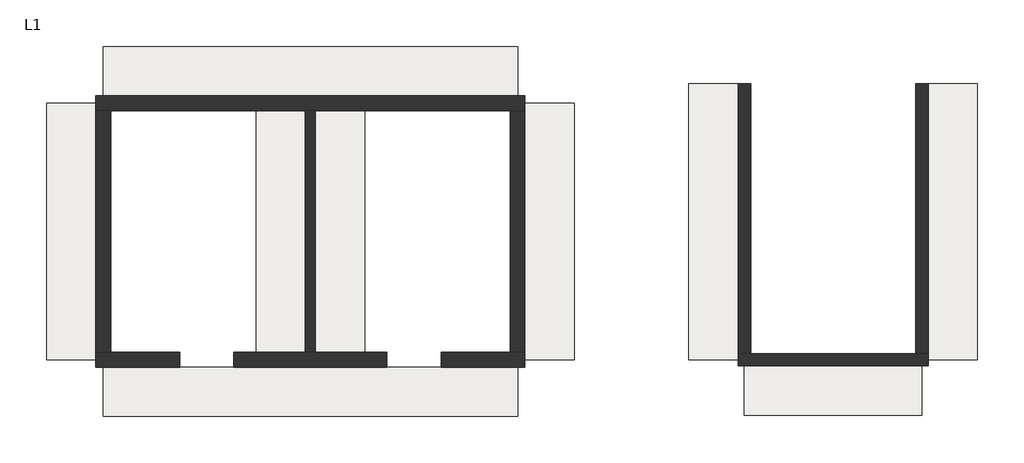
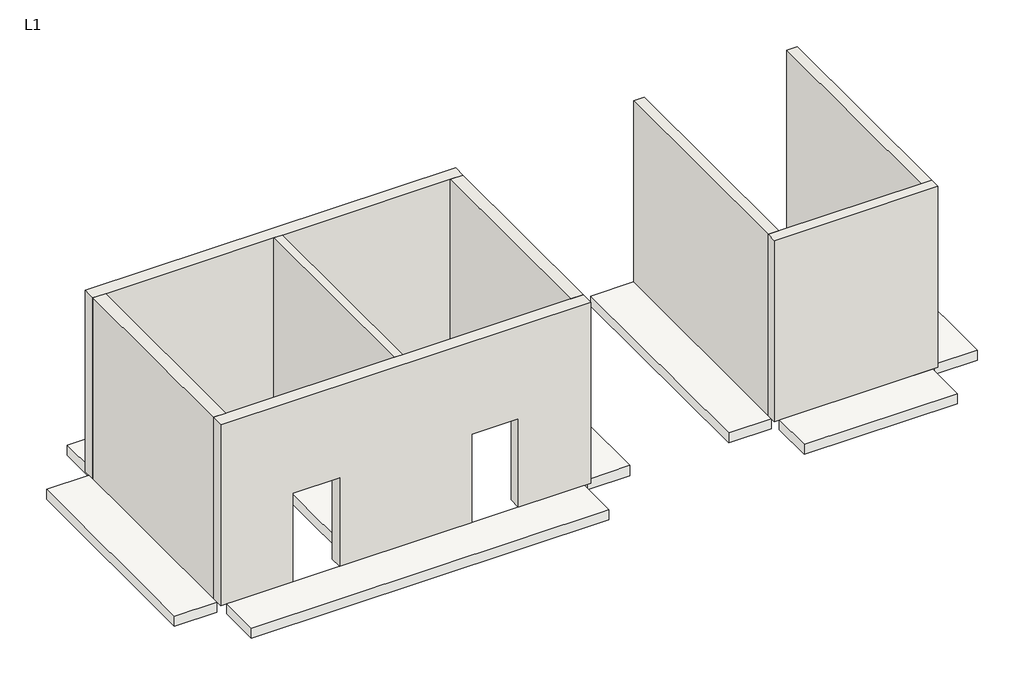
# One storey: 9 slabs, 8 walls.
"""IFC4 building model written with IfcOpenShell, lengths in millimetres."""

import ifcopenshell
import ifcopenshell.guid

model = None  # the IFC model being written
_history = None  # IfcOwnerHistory: only IFC2X3 demands one
_inside = {}  # id of a spatial element -> (the spatial element, [elements in it])
_under = {}  # id of a project, library or spatial element -> (it, [spatial elements below it])
_declared = {}  # id of a project -> (the project, [libraries it declares])
_typed = {}  # id of a type object -> (the type object, [elements of that type])
_made_of = {}  # id of a material, layer set ... -> (it, [elements and type objects made of it])


def new_model(schema):
    """Start an empty IFC model of exactly this schema.

    Asked for "IFC4X3", IfcOpenShell would pick the latest addendum, in which some entities
    have other attributes; the version numbers below select the first issue.
    IFC2X3 requires an IfcOwnerHistory on every rooted entity: one is made here for all.
    """
    global model, _history
    if schema == "IFC4X3":
        model = ifcopenshell.file(schema_version=(4, 3, 0, 0))
    else:
        model = ifcopenshell.file(schema=schema)
    _inside.clear()
    _under.clear()
    _declared.clear()
    _typed.clear()
    _made_of.clear()
    _history = None
    if model.schema == "IFC2X3":
        org = make("IfcOrganization", Name="unknown")
        user = make(
            "IfcPersonAndOrganization",
            ThePerson=make("IfcPerson", FamilyName="unknown"),
            TheOrganization=org,
        )
        app = make(
            "IfcApplication",
            ApplicationDeveloper=org,
            Version="unknown",
            ApplicationFullName="unknown",
            ApplicationIdentifier="unknown",
        )
        _history = make(
            "IfcOwnerHistory",
            OwningUser=user,
            OwningApplication=app,
            ChangeAction="ADDED",
            CreationDate=0,
        )
    return model


def make(cls, **values):
    """One entity of the class cls with the attributes given. An attribute that is None is left unset."""
    return model.create_entity(
        cls, **{name: value for name, value in values.items() if value is not None}
    )


def rooted(cls, **values):
    """An entity with a GlobalId (a new one), such as an element, a storey or a relation."""
    return make(cls, GlobalId=ifcopenshell.guid.new(), OwnerHistory=_history, **values)


def si_unit(unit_type, name, prefix=None):
    """IfcSIUnit, for example si_unit("LENGTHUNIT", "METRE", prefix="MILLI")."""
    return make("IfcSIUnit", UnitType=unit_type, Prefix=prefix, Name=name)


def assignment(units):
    """IfcUnitAssignment: the units of a project."""
    return None if units is None else make("IfcUnitAssignment", Units=units)


def point(xyz):
    """IfcCartesianPoint."""
    return None if xyz is None else make("IfcCartesianPoint", Coordinates=xyz)


def direction(xyz):
    """IfcDirection."""
    return None if xyz is None else make("IfcDirection", DirectionRatios=xyz)


def frame(location, z_axis=None, x_axis=None):
    """IfcAxis2Placement3D, a coordinate frame: its origin and axes. An axis left out is left unset."""
    return make(
        "IfcAxis2Placement3D",
        Location=point(location),
        Axis=direction(z_axis),
        RefDirection=direction(x_axis),
    )


def origin():
    """The frame at (0, 0, 0) with its axes left unset."""
    return frame((0.0, 0.0, 0.0))


def origin_with_axes():
    """The frame at (0, 0, 0) with the z axis (0, 0, 1) and the x axis (1, 0, 0) written out."""
    return frame((0.0, 0.0, 0.0), z_axis=(0.0, 0.0, 1.0), x_axis=(1.0, 0.0, 0.0))


def place(relative_to, where):
    """IfcLocalPlacement: puts the frame where relative to a parent placement (None: the world)."""
    return make(
        "IfcLocalPlacement", PlacementRelTo=relative_to, RelativePlacement=where
    )


def context(
    kind, dimensions, precision=None, world=None, true_north=None, identifier=None
):
    """IfcGeometricRepresentationContext, for example the 3D "Model" context."""
    return make(
        "IfcGeometricRepresentationContext",
        ContextIdentifier=identifier,
        ContextType=kind,
        CoordinateSpaceDimension=dimensions,
        Precision=precision,
        WorldCoordinateSystem=world,
        TrueNorth=true_north,
    )


def project(units=None, contexts=None):
    """IfcProject with its units and contexts."""
    return rooted(
        "IfcProject",
        Name="project",
        RepresentationContexts=contexts,
        UnitsInContext=assignment(units),
    )


def spatial(cls, under=None, at=None, **own):
    """A site, building, storey or space (cls), placed at a placement, below another one or the project."""
    s = rooted(cls, ObjectPlacement=at, **own)
    if under is not None:
        _under.setdefault(under.id(), (under, []))[1].append(s)
    return s


def polyline(points):
    """IfcPolyline through the points."""
    return make("IfcPolyline", Points=[point(p) for p in points])


def outline(outer, holes=None, kind="AREA"):
    """IfcArbitraryClosedProfileDef: a profile drawn as a closed curve; with holes, ...WithVoids."""
    if holes is None:
        return make("IfcArbitraryClosedProfileDef", ProfileType=kind, OuterCurve=outer)
    return make(
        "IfcArbitraryProfileDefWithVoids",
        ProfileType=kind,
        OuterCurve=outer,
        InnerCurves=holes,
    )


def extrude(swept, where, along, depth):
    """IfcExtrudedAreaSolid: the profile swept, set in the frame where, extruded along a direction by depth."""
    return make(
        "IfcExtrudedAreaSolid",
        SweptArea=swept,
        Position=where,
        ExtrudedDirection=direction(along),
        Depth=depth,
    )


def faces_of(points, faces, orient=None, outer=None):
    """IfcFace entities. A face is a list of loops; a loop is a list of indices into points, from 0.

    orient and outer hold one flag for each loop. By default every Orientation is true, the
    first loop of a face is its IfcFaceOuterBound and the others are IfcFaceBound.
    """
    made = []
    for i, loops in enumerate(faces):
        bounds = []
        for j, loop in enumerate(loops):
            is_outer = j == 0 if outer is None else outer[i][j]
            bounds.append(
                make(
                    "IfcFaceOuterBound" if is_outer else "IfcFaceBound",
                    Bound=make("IfcPolyLoop", Polygon=[points[k] for k in loop]),
                    Orientation=True if orient is None else orient[i][j],
                )
            )
        made.append(make("IfcFace", Bounds=bounds))
    return made


def faceted_brep(points, faces, orient=None, outer=None, voids=None):
    """IfcFacetedBrep: a solid bounded by flat faces; with voids (closed shells), ...WithVoids."""
    shared = [point(p) for p in points]
    hull = make("IfcClosedShell", CfsFaces=faces_of(shared, faces, orient, outer))
    if voids is None:
        return make("IfcFacetedBrep", Outer=hull)
    return make(
        "IfcFacetedBrepWithVoids",
        Outer=hull,
        Voids=[
            make(cls, CfsFaces=faces_of(shared, fs, o, b)) for cls, fs, o, b in voids
        ],
    )


def shape(context_of_items, identifier, shape_type, items):
    """IfcShapeRepresentation: the items that make up one representation, for example the "Body"."""
    return make(
        "IfcShapeRepresentation",
        ContextOfItems=context_of_items,
        RepresentationIdentifier=identifier,
        RepresentationType=shape_type,
        Items=items,
    )


def made_of(thing, what):
    """Note that an element or type object is made of a material, layer set ...; save() writes the relation."""
    if what is not None:
        _made_of.setdefault(what.id(), (what, []))[1].append(thing)
    return thing


def element(
    cls,
    number,
    at=None,
    inside=None,
    cuts=None,
    type_object=None,
    material=None,
    context=None,
    identifier="Body",
    shape_type=None,
    held_by="IfcProductDefinitionShape",
    body=None,
    shapes=None,
    **own,
):
    """One element of the class cls, such as IfcWall. Its Tag is "e" and its number.

    at: its placement. inside: the storey or other place that contains it. cuts: it is an
    opening in that element (IfcRelVoidsElement). A single representation is given by context,
    identifier, shape_type and body (its items); several are given by shapes. held_by: the class
    of the entity that holds the representations. save() writes the other relations.
    """
    e = rooted(cls, Tag="e%d" % number, ObjectPlacement=at, **own)
    if body is not None:
        shapes = [shape(context, identifier, shape_type, body)]
    if shapes is not None:
        e.Representation = make(held_by, Representations=shapes)
    if inside is not None:
        _inside.setdefault(inside.id(), (inside, []))[1].append(e)
    if cuts is not None:
        rooted(
            "IfcRelVoidsElement", RelatingBuildingElement=cuts, RelatedOpeningElement=e
        )
    if type_object is not None:
        _typed.setdefault(type_object.id(), (type_object, []))[1].append(e)
    return made_of(e, material)


def aggregate(whole, parts):
    """IfcRelAggregates: a whole, such as a stair, and the parts it consists of."""
    return rooted("IfcRelAggregates", RelatingObject=whole, RelatedObjects=parts)


def save(model, path):
    """Write the relations noted so far, then the file.

    IfcRelAggregates (storeys below a building ...), IfcRelContainedInSpatialStructure (elements
    in a storey), IfcRelDefinesByType, IfcRelAssociatesMaterial and IfcRelDeclares: one each for
    every whole, place, type object, material and project.
    """
    for whole, parts in _under.values():
        aggregate(whole, parts)
    for where, things in _inside.values():
        rooted(
            "IfcRelContainedInSpatialStructure",
            RelatedElements=things,
            RelatingStructure=where,
        )
    for kind, things in _typed.values():
        rooted("IfcRelDefinesByType", RelatedObjects=things, RelatingType=kind)
    for what, things in _made_of.values():
        rooted("IfcRelAssociatesMaterial", RelatedObjects=things, RelatingMaterial=what)
    for by, libraries in _declared.values():
        rooted("IfcRelDeclares", RelatingContext=by, RelatedDefinitions=libraries)
    model.write(path)


model = new_model("IFC4")

# Units and contexts
model_context = context("Model", 3, world=origin())
ifc_project = project(units=[si_unit("LENGTHUNIT", "METRE", prefix="MILLI")], contexts=[model_context])

# Site, building, storey
site = spatial("IfcSite", under=ifc_project)
building = spatial("IfcBuilding", under=site)
storey = spatial("IfcBuildingStorey", under=building, Name="L1", Elevation=0.0)

# Slabs
placement = place(None, origin())
element("IfcSlab", 1, ObjectType="BS-Sàn 250", at=placement, inside=storey, context=model_context, shape_type="SweptSolid", body=[
    extrude(outline(polyline([(0.0, 6350.0), (8400.0, 6350.0), (8400.0, 5350.0), (0.0, 5350.0), (0.0, 6350.0)])), frame((0.0, 0.0, -250.0), z_axis=(0.0, 0.0, 1.0), x_axis=(1.0, 0.0, 0.0)), (0.0, 0.0, 1.0), 250.0),
])
element("IfcSlab", 2, ObjectType="BS-Sàn 250", at=placement, inside=storey, context=model_context, shape_type="SweptSolid", body=[
    extrude(outline(polyline([(16725.0, 5600.0), (17725.0, 5600.0), (17725.0, 0.0), (16725.0, 0.0), (16725.0, 5600.0)])), frame((0.0, 0.0, -250.0), z_axis=(0.0, 0.0, 1.0), x_axis=(1.0, 0.0, 0.0)), (0.0, 0.0, 1.0), 250.0),
])
element("IfcSlab", 3, ObjectType="BS-Sàn 250", at=placement, inside=storey, context=model_context, shape_type="SweptSolid", body=[
    extrude(outline(polyline([(11875.0, 5600.0), (12875.0, 5600.0), (12875.0, 0.0), (11875.0, 0.0), (11875.0, 5600.0)])), frame((0.0, 0.0, -250.0), z_axis=(0.0, 0.0, 1.0), x_axis=(1.0, 0.0, 0.0)), (0.0, 0.0, 1.0), 250.0),
])
element("IfcSlab", 4, ObjectType="BS-Sàn 250", at=placement, inside=storey, context=model_context, shape_type="SweptSolid", body=[
    extrude(outline(polyline([(4300.0, 5200.0), (5300.0, 5200.0), (5300.0, 0.0), (4300.0, 0.0), (4300.0, 5200.0)])), frame((0.0, 0.0, -250.0), z_axis=(0.0, 0.0, 1.0), x_axis=(1.0, 0.0, 0.0)), (0.0, 0.0, 1.0), 250.0),
])
element("IfcSlab", 5, ObjectType="BS-Sàn 250", at=placement, inside=storey, context=model_context, shape_type="SweptSolid", body=[
    extrude(outline(polyline([(3100.0, 5200.0), (4100.0, 5200.0), (4100.0, 0.0), (3100.0, 0.0), (3100.0, 5200.0)])), frame((0.0, 0.0, -250.0), z_axis=(0.0, 0.0, 1.0), x_axis=(1.0, 0.0, 0.0)), (0.0, 0.0, 1.0), 250.0),
])
element("IfcSlab", 6, ObjectType="BS-Sàn 250", at=placement, inside=storey, context=model_context, shape_type="SweptSolid", body=[
    extrude(outline(polyline([(8550.0, 5200.0), (9550.0, 5200.0), (9550.0, 0.0), (8550.0, 0.0), (8550.0, 5200.0)])), frame((0.0, 0.0, -250.0), z_axis=(0.0, 0.0, 1.0), x_axis=(1.0, 0.0, 0.0)), (0.0, 0.0, 1.0), 250.0),
])
element("IfcSlab", 7, ObjectType="BS-Sàn 250", at=placement, inside=storey, context=model_context, shape_type="SweptSolid", body=[
    extrude(outline(polyline([(-1150.0, 5200.0), (-150.0, 5200.0), (-150.0, 0.0), (-1150.0, 0.0), (-1150.0, 5200.0)])), frame((0.0, 0.0, -250.0), z_axis=(0.0, 0.0, 1.0), x_axis=(1.0, 0.0, 0.0)), (0.0, 0.0, 1.0), 250.0),
])
element("IfcSlab", 8, ObjectType="BS-Sàn 250", at=placement, inside=storey, context=model_context, shape_type="SweptSolid", body=[
    extrude(outline(polyline([(13000.0, -125.0), (16600.0, -125.0), (16600.0, -1125.0), (13000.0, -1125.0), (13000.0, -125.0)])), frame((0.0, 0.0, -250.0), z_axis=(0.0, 0.0, 1.0), x_axis=(1.0, 0.0, 0.0)), (0.0, 0.0, 1.0), 250.0),
])
element("IfcSlab", 9, ObjectType="BS-Sàn 250", at=placement, inside=storey, context=model_context, shape_type="SweptSolid", body=[
    extrude(outline(polyline([(0.0, -150.0), (8400.0, -150.0), (8400.0, -1150.0), (0.0, -1150.0), (0.0, -150.0)])), frame((0.0, 0.0, -250.0), z_axis=(0.0, 0.0, 1.0), x_axis=(1.0, 0.0, 0.0)), (0.0, 0.0, 1.0), 250.0),
])

# Walls
element("IfcWall", 10, ObjectType="BS-Vách 300", at=placement, inside=storey, context=model_context, shape_type="Brep", body=[
    faceted_brep([(-150.0, 5050.0, 0.0), (150.0, 5050.0, 0.0), (4100.0, 5050.0, 0.0), (4300.0, 5050.0, 0.0), (8250.0, 5050.0, 0.0), (8550.0, 5050.0, 0.0), (8550.0, 5050.0, 4500.0), (8250.0, 5050.0, 4500.0), (4300.0, 5050.0, 4500.0), (4100.0, 5050.0, 4500.0), (150.0, 5050.0, 4500.0), (-150.0, 5050.0, 4500.0), (-150.0, 5350.0, 0.0), (-150.0, 5350.0, 4500.0), (8550.0, 5350.0, 4500.0), (8550.0, 5350.0, 0.0)], [[[0, 1, 2, 3, 4, 5, 6, 7, 8, 9, 10, 11]], [[12, 13, 14, 15]], [[5, 4, 3, 2, 1, 0, 12, 15]], [[11, 10, 9, 8, 7, 6, 14, 13]], [[6, 5, 15, 14]], [[0, 11, 13, 12]]]),
])
element("IfcWall", 11, ObjectType="BS-Vách 300", at=placement, inside=storey, context=model_context, shape_type="Brep", body=[
    faceted_brep([(8550.0, -150.0, 0.0), (8550.0, -150.0, 4500.0), (-150.0, -150.0, 4500.0), (-150.0, -150.0, 0.0), (1550.0, -150.0, 0.0), (1550.0, -150.0, 2200.0), (2650.0, -150.0, 2200.0), (2650.0, -150.0, 0.0), (5750.0, -150.0, 0.0), (5750.0, -150.0, 2200.0), (6850.0, -150.0, 2200.0), (6850.0, -150.0, 0.0), (8550.0, 150.0, 4500.0), (8550.0, 150.0, 0.0), (8250.0, 150.0, 0.0), (6850.0, 150.0, 0.0), (6850.0, 150.0, 2200.0), (5750.0, 150.0, 2200.0), (5750.0, 150.0, 0.0), (4300.0, 150.0, 0.0), (4100.0, 150.0, 0.0), (2650.0, 150.0, 0.0), (2650.0, 150.0, 2200.0), (1550.0, 150.0, 2200.0), (1550.0, 150.0, 0.0), (150.0, 150.0, 0.0), (-150.0, 150.0, 0.0), (-150.0, 150.0, 4500.0), (150.0, 150.0, 4500.0), (4100.0, 150.0, 4500.0), (4300.0, 150.0, 4500.0), (8250.0, 150.0, 4500.0)], [[[0, 1, 2, 3, 4, 5, 6, 7, 8, 9, 10, 11]], [[12, 13, 14, 15, 16, 17, 18, 19, 20, 21, 22, 23, 24, 25, 26, 27, 28, 29, 30, 31]], [[7, 21, 20, 19, 18, 8]], [[13, 0, 11, 15, 14]], [[3, 26, 25, 24, 4]], [[2, 1, 12, 31, 30, 29, 28, 27]], [[5, 23, 22, 6]], [[23, 5, 4, 24]], [[6, 22, 21, 7]], [[9, 17, 16, 10]], [[17, 9, 8, 18]], [[10, 16, 15, 11]], [[1, 0, 13, 12]], [[3, 2, 27, 26]]]),
])
element("IfcWall", 12, ObjectType="BS-Vách 300", at=placement, inside=storey, context=model_context, shape_type="SweptSolid", body=[
    extrude(outline(polyline([(150.0, 5050.0), (150.0, 150.0), (-150.0, 150.0), (-150.0, 5050.0), (150.0, 5050.0)])), origin_with_axes(), (0.0, 0.0, 1.0), 4500.0),
])
element("IfcWall", 13, ObjectType="BS-Vách 300", at=placement, inside=storey, context=model_context, shape_type="SweptSolid", body=[
    extrude(outline(polyline([(8550.0, 5050.0), (8550.0, 150.0), (8250.0, 150.0), (8250.0, 5050.0), (8550.0, 5050.0)])), origin_with_axes(), (0.0, 0.0, 1.0), 4500.0),
])
element("IfcWall", 14, ObjectType="BS-Vách 200", at=placement, inside=storey, context=model_context, shape_type="SweptSolid", body=[
    extrude(outline(polyline([(4300.0, 5050.0), (4300.0, 150.0), (4100.0, 150.0), (4100.0, 5050.0), (4300.0, 5050.0)])), origin_with_axes(), (0.0, 0.0, 1.0), 4500.0),
])
element("IfcWall", 15, ObjectType="BS-Vách 250", at=placement, inside=storey, context=model_context, shape_type="Brep", body=[
    faceted_brep([(12875.0, -125.0, 0.0), (16725.0, -125.0, 0.0), (16725.0, -125.0, 4500.0), (12875.0, -125.0, 4500.0), (12875.0, 125.0, 0.0), (12875.0, 125.0, 4500.0), (13125.0, 125.0, 4500.0), (16475.0, 125.0, 4500.0), (16725.0, 125.0, 4500.0), (16725.0, 125.0, 0.0), (16475.0, 125.0, 0.0), (13125.0, 125.0, 0.0)], [[[0, 1, 2, 3]], [[4, 5, 6, 7, 8, 9, 10, 11]], [[1, 0, 4, 11, 10, 9]], [[3, 2, 8, 7, 6, 5]], [[2, 1, 9, 8]], [[0, 3, 5, 4]]]),
])
element("IfcWall", 16, ObjectType="BS-Vách 250", at=placement, inside=storey, context=model_context, shape_type="SweptSolid", body=[
    extrude(outline(polyline([(13125.0, 5600.0), (13125.0, 125.0), (12875.0, 125.0), (12875.0, 5600.0), (13125.0, 5600.0)])), origin_with_axes(), (0.0, 0.0, 1.0), 4500.0),
])
element("IfcWall", 17, ObjectType="BS-Vách 250", at=placement, inside=storey, context=model_context, shape_type="SweptSolid", body=[
    extrude(outline(polyline([(16725.0, 5600.0), (16725.0, 125.0), (16475.0, 125.0), (16475.0, 5600.0), (16725.0, 5600.0)])), origin_with_axes(), (0.0, 0.0, 1.0), 4500.0),
])

save(model, "model.ifc")
